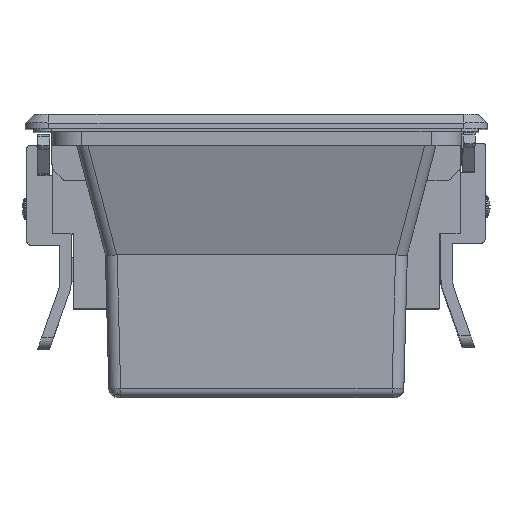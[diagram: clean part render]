
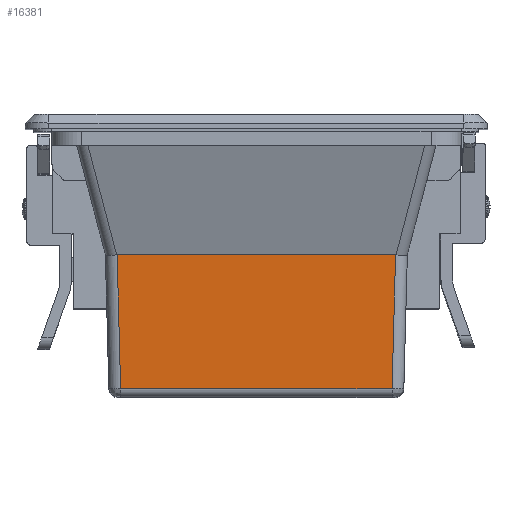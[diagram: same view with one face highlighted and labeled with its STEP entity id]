
A CAD part, top view. The second image highlights one B-rep face of the part: STEP entity #16381.
In plain terms, the highlighted planar face has unit normal (0, -0.035, 0.999).
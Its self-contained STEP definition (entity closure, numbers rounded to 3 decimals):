
#1687=CARTESIAN_POINT('',(23.634,-23.836,35.844));
#1953=DIRECTION('',(1.,0.,0.));
#1954=VECTOR('',#1953,46.078);
#1955=CARTESIAN_POINT('',(-23.039,-46.552,
35.051));
#1956=LINE('',#1955,#1954);
#5996=DIRECTION('',(-0.026,0.999,0.035));
#5997=VECTOR('',#5996,22.738);
#5998=CARTESIAN_POINT('',(-23.039,-46.552,
35.051));
#5999=LINE('',#5998,#5997);
#6000=DIRECTION('',(1.,0.,0.));
#6001=VECTOR('',#6000,47.268);
#6002=CARTESIAN_POINT('',(-23.634,-23.836,
35.844));
#6003=LINE('',#6002,#6001);
#6004=DIRECTION('',(-0.026,-0.999,-0.035));
#6005=VECTOR('',#6004,22.738);
#6006=CARTESIAN_POINT('',(23.634,-23.836,35.844));
#6007=LINE('',#6006,#6005);
#7275=VERTEX_POINT('',#1687);
#7276=CARTESIAN_POINT('',(-23.634,-23.836,
35.844));
#7277=VERTEX_POINT('',#7276);
#7343=CARTESIAN_POINT('',(-23.039,-46.552,
35.051));
#7344=VERTEX_POINT('',#7343);
#7345=CARTESIAN_POINT('',(23.039,-46.552,35.051));
#7346=VERTEX_POINT('',#7345);
#16369=CARTESIAN_POINT('',(-27.804,-48.,35.));
#16370=DIRECTION('',(0.,-0.035,0.999));
#16371=DIRECTION('',(-1.,0.,0.));
#16372=AXIS2_PLACEMENT_3D('',#16369,#16370,#16371);
#16373=PLANE('',#16372);
#16374=ORIENTED_EDGE('',*,*,#10574,.F.);
#16375=ORIENTED_EDGE('',*,*,#10620,.T.);
#16376=ORIENTED_EDGE('',*,*,#10245,.T.);
#16378=ORIENTED_EDGE('',*,*,#16377,.T.);
#16379=EDGE_LOOP('',(#16374,#16375,#16376,#16378));
#16380=FACE_OUTER_BOUND('',#16379,.F.);
#10245=EDGE_CURVE('',#7277,#7275,#6003,.T.);
#10574=EDGE_CURVE('',#7344,#7346,#1956,.T.);
#10620=EDGE_CURVE('',#7344,#7277,#5999,.T.);
#16377=EDGE_CURVE('',#7275,#7346,#6007,.T.);
#16381=ADVANCED_FACE('',(#16380),#16373,.T.);
